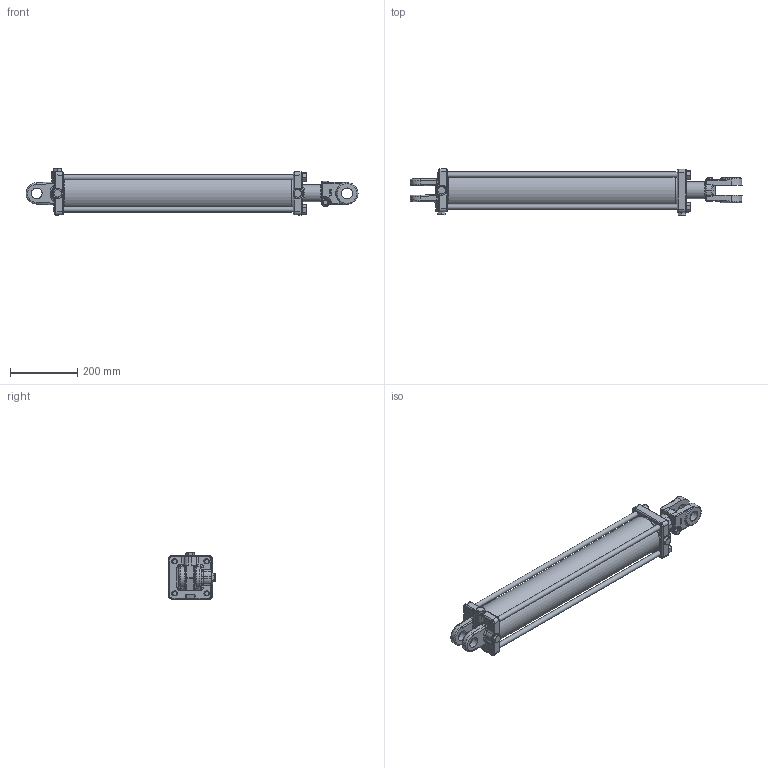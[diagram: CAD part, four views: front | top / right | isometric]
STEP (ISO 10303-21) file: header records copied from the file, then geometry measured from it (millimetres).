
FILE_DESCRIPTION((''),'2;1');
FILE_NAME('\\SRVR-ENG\EngSales\c400240BBDDA07b.stp','2012-07-06T13:09:41',('KneiflD'),(''),'Autodesk Inventor 2012','Autodesk Inventor 2012','');
FILE_SCHEMA(('AUTOMOTIVE_DESIGN { 1 0 10303 214 1 1 1 1 }'));
Length unit declared in the file: inch
Products named in the file (15): c400240BBDDA07b; 1419007SF; 011131438d; 220000212; 071900260V; 0819BBNSFV; 100000328; 100000327; 170002105; 220000223; 170301294V; 800006201V_29.5; 220000107V; 200300040V; 051926563AV
Assembly tree (19 placements, depth 3):
  c400240BBDDA07b
    1419007SF
    011131438d
    220000212
    071900260V
    0819BBNSFV
    100000328
      100000327
      170002105
      220000223
    170301294V  x4
      800006201V_29.5
      220000107V
    200300040V  x3
    051926563AV
Bounding box: 984.84 x 138.85 x 137.01 mm (x, y, z)
Volume: 4708143.1 mm3; surface area: 979043.3 mm2
Topology: 20 solids, 20 shells, 824 faces, 1895 edges, 1117 vertices
Faces by surface type: plane 237, cylinder 195, bspline 176, cone 157, torus 53, sphere 6
Full cylindrical faces by diameter (mm): 7.938 x3, 9.144 x1, 11.113 x2, 11.906 x2, 14.351 x4, 14.529 x4, 14.834 x4, 15.707 x1, 16.272 x4, 16.764 x3, 17.066 x2, 17.335 x1, 17.501 x2, 19.05 x3, 29.464 x1, 31.699 x1, 31.826 x1, 32.131 x4, 34.315 x1, 35.331 x1, 37.897 x1, 44.526 x2, 50.8 x1, 54 x1, 57.15 x1, 73.152 x1, 92.024 x1, 95.021 x1, 95.936 x1, 95.961 x1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
Entity records: 27372 total; most frequent: CARTESIAN_POINT 12825, ORIENTED_EDGE 2884, DIRECTION 2647, EDGE_CURVE 1442, AXIS2_PLACEMENT_3D 1104, VERTEX_POINT 924, EDGE_LOOP 872, FACE_OUTER_BOUND 684
